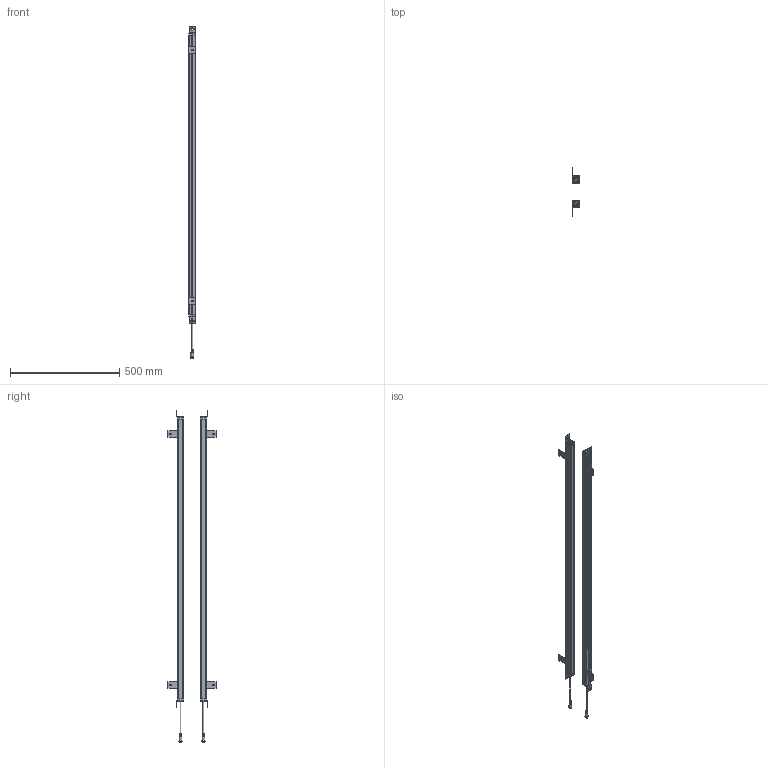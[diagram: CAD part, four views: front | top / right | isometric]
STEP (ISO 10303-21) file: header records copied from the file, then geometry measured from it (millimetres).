
FILE_DESCRIPTION(/* description */ (''),/* implementation_level */ '2;1');
FILE_NAME(/* name */ '3240（29x30).stp',/* time_stamp */ '2023-05-04T09:22:15+08:00',/* author */ (''),/* organization */ (''),/* preprocessor_version */ 'ST-DEVELOPER v16.7',/* originating_system */ 'SIEMENS PLM Software NX 12.0',/* authorisation */ '');
FILE_SCHEMA (('AUTOMOTIVE_DESIGN { 1 0 10303 214 3 1 1 1 }'));
Products named in the file (1): 2640（29x30__stp111_stp
Bounding box: 32.03 x 223.99 x 1521 mm (x, y, z)
Volume: 807748.3 mm3; surface area: 831930.2 mm2
Topology: 34 solids, 34 shells, 1610 faces, 4267 edges, 2771 vertices
Faces by surface type: plane 750, cylinder 648, bspline 88, sphere 36, cone 36, torus 32, extrusion 20
Full cylindrical faces by diameter (mm): 1.533 x6, 4.4 x4, 9 x2, 12.5 x2
Entity records: 56427 total; most frequent: CARTESIAN_POINT 16064, DIRECTION 8330, ORIENTED_EDGE 8324, EDGE_CURVE 4162, AXIS2_PLACEMENT_3D 2918, VERTEX_POINT 2696, VECTOR 2494, LINE 2474
